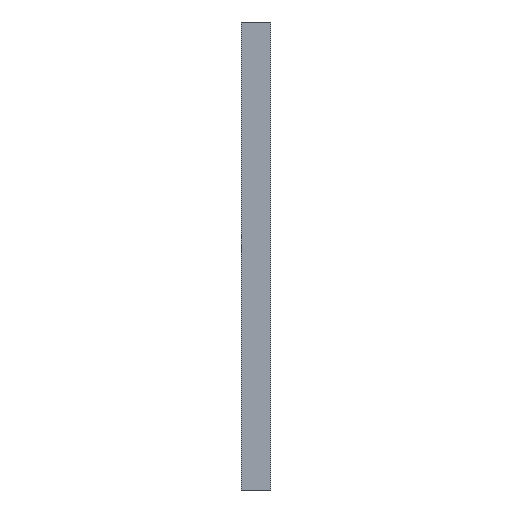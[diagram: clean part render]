
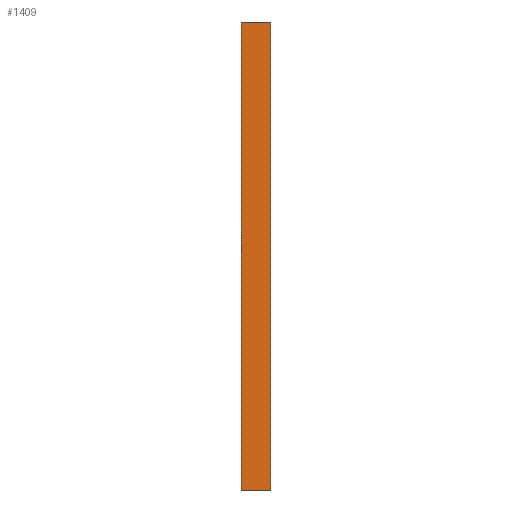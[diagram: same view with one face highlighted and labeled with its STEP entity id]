
A CAD part, front view. The second image highlights one B-rep face of the part: STEP entity #1409.
In plain terms, the highlighted planar face has unit normal (0, -1, 0).
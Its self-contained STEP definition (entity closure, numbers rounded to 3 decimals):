
#13 = CARTESIAN_POINT ( 'NONE',  ( 25., 0., -200. ) ) ;
#23 = DIRECTION ( 'NONE',  ( -1., 0., 0. ) ) ;
#48 = ORIENTED_EDGE ( 'NONE', *, *, #890, .T. ) ;
#202 = CARTESIAN_POINT ( 'NONE',  ( 0., 0., 200. ) ) ;
#213 = DIRECTION ( 'NONE',  ( 0., 0., -1. ) ) ;
#254 = CARTESIAN_POINT ( 'NONE',  ( 0., 0., -200. ) ) ;
#282 = CARTESIAN_POINT ( 'NONE',  ( 25., 0., 200. ) ) ;
#302 = VERTEX_POINT ( 'NONE', #650 ) ;
#396 = EDGE_CURVE ( 'NONE', #1407, #1081, #952, .T. ) ;
#580 = ORIENTED_EDGE ( 'NONE', *, *, #1526, .F. ) ;
#616 = CARTESIAN_POINT ( 'NONE',  ( 25., 0., 200. ) ) ;
#627 = LINE ( 'NONE', #616, #1125 ) ;
#650 = CARTESIAN_POINT ( 'NONE',  ( 25., 0., 200. ) ) ;
#885 = CARTESIAN_POINT ( 'NONE',  ( 0., 0., 200. ) ) ;
#890 = EDGE_CURVE ( 'NONE', #302, #1407, #627, .T. ) ;
#896 = LINE ( 'NONE', #1222, #1564 ) ;
#952 = LINE ( 'NONE', #202, #1116 ) ;
#1081 = VERTEX_POINT ( 'NONE', #254 ) ;
#1090 = ORIENTED_EDGE ( 'NONE', *, *, #396, .T. ) ;
#1116 = VECTOR ( 'NONE', #213, 1000. ) ;
#1125 = VECTOR ( 'NONE', #1317, 1000. ) ;
#1189 = EDGE_CURVE ( 'NONE', #302, #1322, #1589, .T. ) ;
#1222 = CARTESIAN_POINT ( 'NONE',  ( 25., 0., -200. ) ) ;
#1317 = DIRECTION ( 'NONE',  ( -1., 0., 0. ) ) ;
#1322 = VERTEX_POINT ( 'NONE', #13 ) ;
#1327 = VECTOR ( 'NONE', #1866, 1000. ) ;
#1344 = FACE_OUTER_BOUND ( 'NONE', #1399, .T. ) ;
#1399 = EDGE_LOOP ( 'NONE', ( #1090, #580, #1603, #48 ) ) ;
#1407 = VERTEX_POINT ( 'NONE', #885 ) ;
#1409 = ADVANCED_FACE ( 'NONE', ( #1344 ), #1626, .F. ) ;
#1487 = DIRECTION ( 'NONE',  ( 0., 0., 1. ) ) ;
#1495 = CARTESIAN_POINT ( 'NONE',  ( 25., 0., 200. ) ) ;
#1526 = EDGE_CURVE ( 'NONE', #1322, #1081, #896, .T. ) ;
#1564 = VECTOR ( 'NONE', #23, 1000. ) ;
#1568 = AXIS2_PLACEMENT_3D ( 'NONE', #1495, #1645, #1487 ) ;
#1589 = LINE ( 'NONE', #282, #1327 ) ;
#1603 = ORIENTED_EDGE ( 'NONE', *, *, #1189, .F. ) ;
#1626 = PLANE ( 'NONE',  #1568 ) ;
#1645 = DIRECTION ( 'NONE',  ( 0., 1., 0. ) ) ;
#1866 = DIRECTION ( 'NONE',  ( 0., 0., -1. ) ) ;
